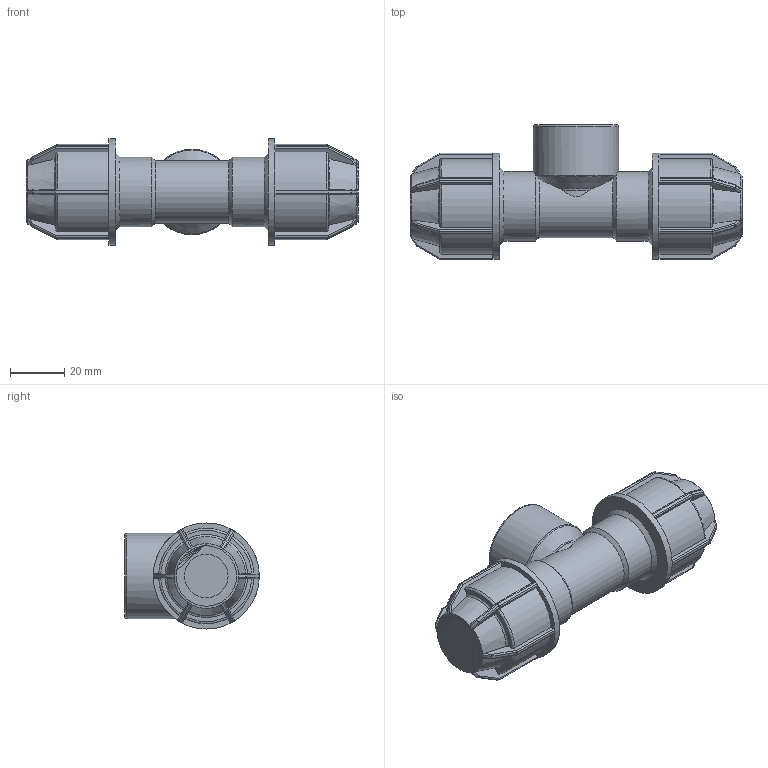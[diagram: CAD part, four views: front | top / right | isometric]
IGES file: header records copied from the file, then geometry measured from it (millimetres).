
Global section: file name: 141400016007.ipt; native system: Autodesk Inventor 2015; preprocessor: unknown; author: KIM; date: 20180416.111600; units: millimetre
Bounding box: 122 x 49.5 x 39 mm (x, y, z)
Volume: 65929.8 mm3; surface area: 25157.7 mm2
Topology: 1 solids, 1 shells, 416 faces, 1010 edges, 594 vertices
Faces by surface type: plane 194, cylinder 116, sphere 48, revolution 40, cone 18
Full cylindrical faces by diameter (mm): 25.6 x2, 31.352 x1, 39 x2
